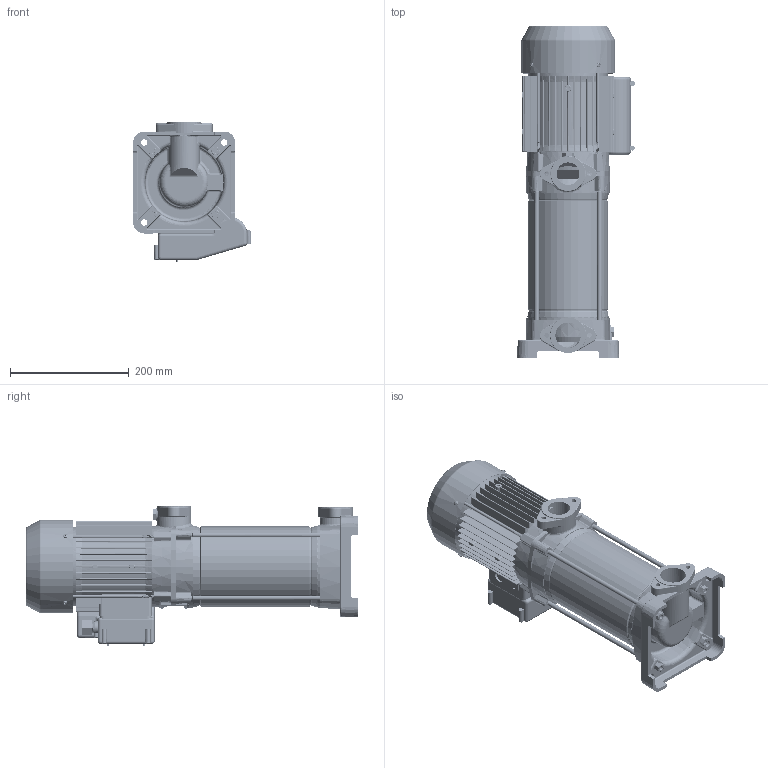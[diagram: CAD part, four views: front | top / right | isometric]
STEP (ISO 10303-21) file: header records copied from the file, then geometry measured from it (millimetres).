
FILE_DESCRIPTION (( 'STEP AP203' ), '1' );
FILE_NAME ('MCXV_9-6-FM.STEP', '2022-08-05T09:55:33', ( '' ), ( '' ), 'SwSTEP 2.0', 'SolidWorks 2021', '' );
FILE_SCHEMA (( 'CONFIG_CONTROL_DESIGN' ));
Products named in the file (1): MCXV_9-6-FM
Bounding box: 198.8 x 559.95 x 236 mm (x, y, z)
Volume: 7469385.1 mm3; surface area: 814971.5 mm2
Topology: 2 solids, 39 shells, 4388 faces, 12041 edges, 7564 vertices
Faces by surface type: plane 1709, cylinder 1571, cone 459, bspline 297, torus 284, sphere 68
Entity records: 209219 total; most frequent: CARTESIAN_POINT 105131, ORIENTED_EDGE 23836, DIRECTION 19643, EDGE_CURVE 11918, VERTEX_POINT 7549, AXIS2_PLACEMENT_3D 7230, LINE 5183, VECTOR 5183
